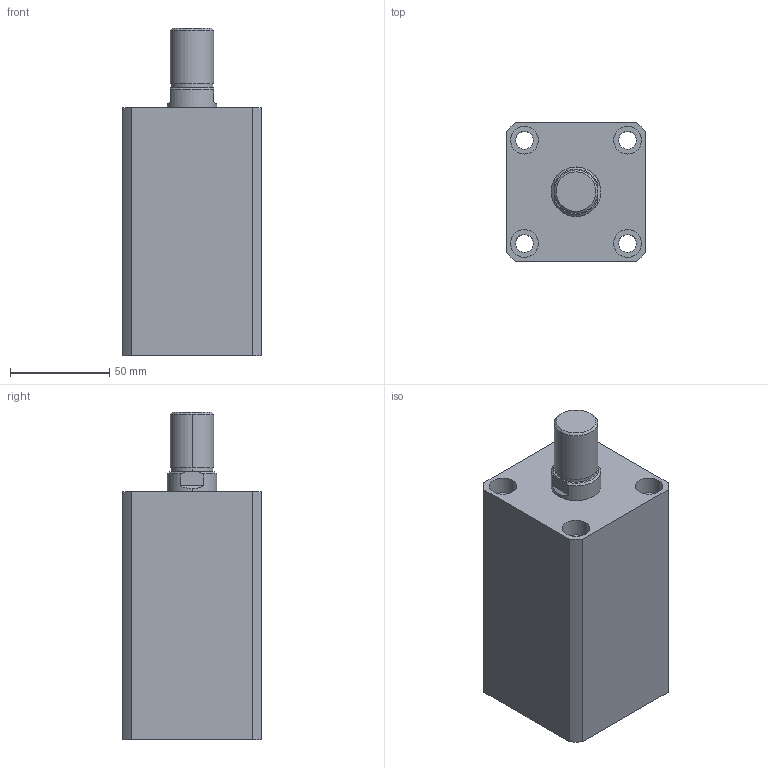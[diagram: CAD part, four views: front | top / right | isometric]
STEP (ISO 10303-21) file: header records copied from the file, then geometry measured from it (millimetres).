
FILE_DESCRIPTION (( 'STEP AP203' ), '1' );
FILE_NAME ('HTB-SDMB40-70W.STEP', '2019-10-09T02:16:56', ( '微软用户' ), ( '微软中国' ), 'SwSTEP 2.0', 'SolidWorks 2012', '' );
FILE_SCHEMA (( 'CONFIG_CONTROL_DESIGN' ));
Length unit declared in the file: millimetre
Products named in the file (3): HTB-SDMB40-70W; HTB-SDMB40-70W活塞杆; HTB-SDMB40-70掛极
Assembly tree (2 placements, depth 2):
  HTB-SDMB40-70W
    HTB-SDMB40-70掛极
    HTB-SDMB40-70W活塞杆
Bounding box: 70 x 70 x 165 mm (x, y, z)
Volume: 531311.7 mm3; surface area: 88555.5 mm2
Topology: 2 solids, 2 shells, 141 faces, 337 edges, 222 vertices
Faces by surface type: plane 67, cylinder 48, bspline 16, torus 6, cone 4
Entity records: 5180 total; most frequent: CARTESIAN_POINT 1597, ORIENTED_EDGE 674, DIRECTION 669, EDGE_CURVE 337, AXIS2_PLACEMENT_3D 242, VERTEX_POINT 222, VECTOR 185, LINE 185
